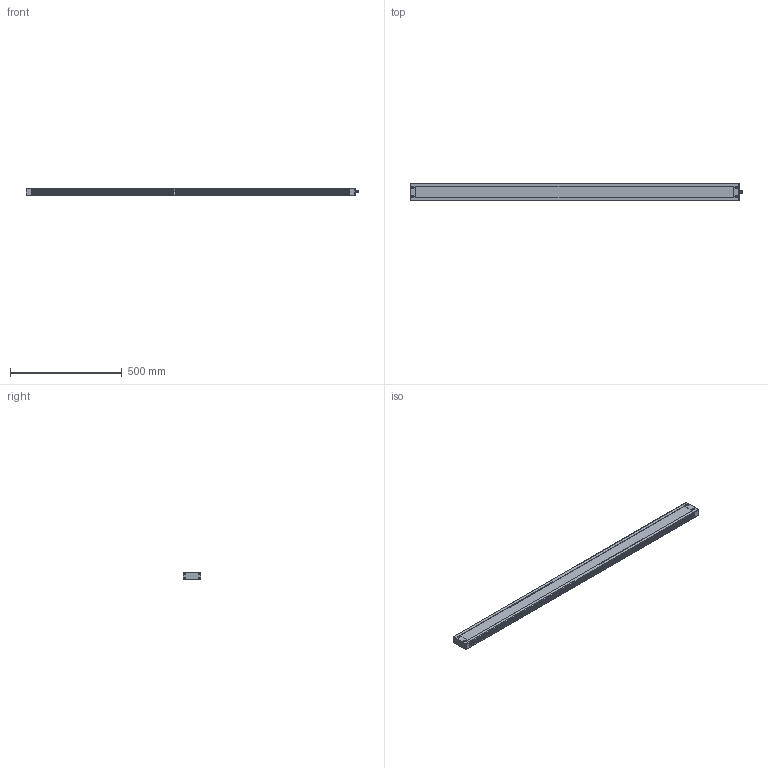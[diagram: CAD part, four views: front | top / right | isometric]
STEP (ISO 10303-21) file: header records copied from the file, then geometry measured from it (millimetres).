
FILE_DESCRIPTION(/* description */ (''),/* implementation_level */ '2;1');
FILE_NAME(/* name */ 'G:\Daten\Leuchten\05000 - LED APL - APL-RGBW\03 - CAD\APL 1400\sangel-systemtechnik-led-arbeitsplatzleuchten-signalleuchten-apl-1400-rgbw-cad_rev.1.stp',/* time_stamp */ '2021-03-23T14:08:24+01:00',/* author */ ('gzahn'),/* organization */ (''),/* preprocessor_version */ 'ST-DEVELOPER v16.13',/* originating_system */ 'Autodesk Inventor 2018',/* authorisation */ '');
FILE_SCHEMA (('AUTOMOTIVE_DESIGN { 1 0 10303 214 3 1 1 }'));
Length unit declared in the file: millimetre
Products named in the file (1): LED APL 1400_Shrinkwrap_1
Bounding box: 1483 x 80 x 32 mm (x, y, z)
Volume: 3410135.8 mm3; surface area: 443864.1 mm2
Topology: 1 solids, 1 shells, 544 faces, 1467 edges, 965 vertices
Faces by surface type: plane 233, cylinder 202, cone 76, bspline 30, torus 3
Full cylindrical faces by diameter (mm): 1 x5, 6.3 x4, 7.5 x8, 8.3 x1, 10.5 x1, 10.65 x1, 12 x5
Entity records: 19570 total; most frequent: CARTESIAN_POINT 6096, ORIENTED_EDGE 2794, DIRECTION 2455, EDGE_CURVE 1397, AXIS2_PLACEMENT_3D 947, VERTEX_POINT 942, EDGE_LOOP 639, LINE 561
